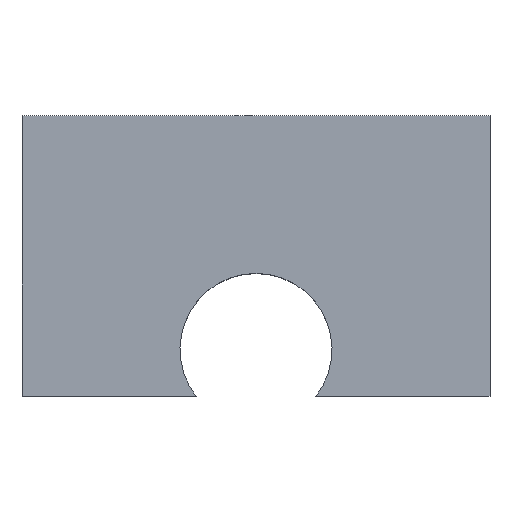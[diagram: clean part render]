
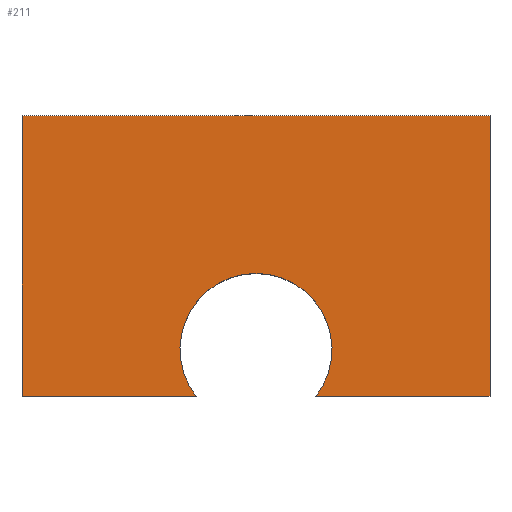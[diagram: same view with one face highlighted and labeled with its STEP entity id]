
A CAD part, top view. The second image highlights one B-rep face of the part: STEP entity #211.
In plain terms, the highlighted planar face has unit normal (0, 0, 1).
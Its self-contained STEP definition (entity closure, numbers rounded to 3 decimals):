
#24 = VERTEX_POINT('',#25);
#25 = CARTESIAN_POINT('',(-10.,48.,16.));
#32 = PLANE('',#33);
#33 = AXIS2_PLACEMENT_3D('',#34,#35,#36);
#34 = CARTESIAN_POINT('',(-10.,48.,12.));
#35 = DIRECTION('',(1.,0.,0.));
#36 = DIRECTION('',(0.,0.,1.));
#44 = PLANE('',#45);
#45 = AXIS2_PLACEMENT_3D('',#46,#47,#48);
#46 = CARTESIAN_POINT('',(-10.,48.,12.));
#47 = DIRECTION('',(0.,1.,0.));
#48 = DIRECTION('',(0.,0.,1.));
#85 = VERTEX_POINT('',#86);
#86 = CARTESIAN_POINT('',(-10.,60.,16.));
#100 = PLANE('',#101);
#101 = AXIS2_PLACEMENT_3D('',#102,#103,#104);
#102 = CARTESIAN_POINT('',(-10.,60.,12.));
#103 = DIRECTION('',(0.,1.,0.));
#104 = DIRECTION('',(0.,0.,1.));
#112 = EDGE_CURVE('',#24,#85,#113,.T.);
#113 = SURFACE_CURVE('',#114,(#118,#125),.PCURVE_S1.);
#114 = LINE('',#115,#116);
#115 = CARTESIAN_POINT('',(-10.,48.,16.));
#116 = VECTOR('',#117,1.);
#117 = DIRECTION('',(0.,1.,0.));
#118 = PCURVE('',#32,#119);
#119 = DEFINITIONAL_REPRESENTATION('',(#120),#124);
#120 = LINE('',#121,#122);
#121 = CARTESIAN_POINT('',(4.,0.));
#122 = VECTOR('',#123,1.);
#123 = DIRECTION('',(0.,-1.));
#124 = ( GEOMETRIC_REPRESENTATION_CONTEXT(2) 
PARAMETRIC_REPRESENTATION_CONTEXT() REPRESENTATION_CONTEXT('2D SPACE',''
  ) );
#125 = PCURVE('',#126,#131);
#126 = PLANE('',#127);
#127 = AXIS2_PLACEMENT_3D('',#128,#129,#130);
#128 = CARTESIAN_POINT('',(-10.,48.,16.));
#129 = DIRECTION('',(0.,0.,1.));
#130 = DIRECTION('',(1.,0.,0.));
#131 = DEFINITIONAL_REPRESENTATION('',(#132),#136);
#132 = LINE('',#133,#134);
#133 = CARTESIAN_POINT('',(0.,0.));
#134 = VECTOR('',#135,1.);
#135 = DIRECTION('',(0.,1.));
#136 = ( GEOMETRIC_REPRESENTATION_CONTEXT(2) 
PARAMETRIC_REPRESENTATION_CONTEXT() REPRESENTATION_CONTEXT('2D SPACE',''
  ) );
#165 = EDGE_CURVE('',#24,#166,#168,.T.);
#166 = VERTEX_POINT('',#167);
#167 = CARTESIAN_POINT('',(-2.562,48.,16.));
#168 = SURFACE_CURVE('',#169,(#173,#180),.PCURVE_S1.);
#169 = LINE('',#170,#171);
#170 = CARTESIAN_POINT('',(-10.,48.,16.));
#171 = VECTOR('',#172,1.);
#172 = DIRECTION('',(1.,0.,0.));
#173 = PCURVE('',#44,#174);
#174 = DEFINITIONAL_REPRESENTATION('',(#175),#179);
#175 = LINE('',#176,#177);
#176 = CARTESIAN_POINT('',(4.,0.));
#177 = VECTOR('',#178,1.);
#178 = DIRECTION('',(0.,1.));
#179 = ( GEOMETRIC_REPRESENTATION_CONTEXT(2) 
PARAMETRIC_REPRESENTATION_CONTEXT() REPRESENTATION_CONTEXT('2D SPACE',''
  ) );
#180 = PCURVE('',#126,#181);
#181 = DEFINITIONAL_REPRESENTATION('',(#182),#186);
#182 = LINE('',#183,#184);
#183 = CARTESIAN_POINT('',(0.,0.));
#184 = VECTOR('',#185,1.);
#185 = DIRECTION('',(1.,0.));
#186 = ( GEOMETRIC_REPRESENTATION_CONTEXT(2) 
PARAMETRIC_REPRESENTATION_CONTEXT() REPRESENTATION_CONTEXT('2D SPACE',''
  ) );
#201 = CYLINDRICAL_SURFACE('',#202,3.25);
#202 = AXIS2_PLACEMENT_3D('',#203,#204,#205);
#203 = CARTESIAN_POINT('',(0.,50.,12.));
#204 = DIRECTION('',(-0.,-0.,-1.));
#205 = DIRECTION('',(1.,0.,0.));
#211 = ADVANCED_FACE('',(#212),#126,.T.);
#212 = FACE_BOUND('',#213,.T.);
#213 = EDGE_LOOP('',(#214,#237,#238,#239,#267,#295));
#214 = ORIENTED_EDGE('',*,*,#215,.F.);
#215 = EDGE_CURVE('',#85,#216,#218,.T.);
#216 = VERTEX_POINT('',#217);
#217 = CARTESIAN_POINT('',(10.,60.,16.));
#218 = SURFACE_CURVE('',#219,(#223,#230),.PCURVE_S1.);
#219 = LINE('',#220,#221);
#220 = CARTESIAN_POINT('',(-10.,60.,16.));
#221 = VECTOR('',#222,1.);
#222 = DIRECTION('',(1.,0.,0.));
#223 = PCURVE('',#126,#224);
#224 = DEFINITIONAL_REPRESENTATION('',(#225),#229);
#225 = LINE('',#226,#227);
#226 = CARTESIAN_POINT('',(0.,12.));
#227 = VECTOR('',#228,1.);
#228 = DIRECTION('',(1.,0.));
#229 = ( GEOMETRIC_REPRESENTATION_CONTEXT(2) 
PARAMETRIC_REPRESENTATION_CONTEXT() REPRESENTATION_CONTEXT('2D SPACE',''
  ) );
#230 = PCURVE('',#100,#231);
#231 = DEFINITIONAL_REPRESENTATION('',(#232),#236);
#232 = LINE('',#233,#234);
#233 = CARTESIAN_POINT('',(4.,0.));
#234 = VECTOR('',#235,1.);
#235 = DIRECTION('',(0.,1.));
#236 = ( GEOMETRIC_REPRESENTATION_CONTEXT(2) 
PARAMETRIC_REPRESENTATION_CONTEXT() REPRESENTATION_CONTEXT('2D SPACE',''
  ) );
#237 = ORIENTED_EDGE('',*,*,#112,.F.);
#238 = ORIENTED_EDGE('',*,*,#165,.T.);
#239 = ORIENTED_EDGE('',*,*,#240,.T.);
#240 = EDGE_CURVE('',#166,#241,#243,.T.);
#241 = VERTEX_POINT('',#242);
#242 = CARTESIAN_POINT('',(2.562,48.,16.));
#243 = SURFACE_CURVE('',#244,(#249,#260),.PCURVE_S1.);
#244 = CIRCLE('',#245,3.25);
#245 = AXIS2_PLACEMENT_3D('',#246,#247,#248);
#246 = CARTESIAN_POINT('',(0.,50.,16.));
#247 = DIRECTION('',(-0.,0.,-1.));
#248 = DIRECTION('',(-0.788,-0.615,0.));
#249 = PCURVE('',#126,#250);
#250 = DEFINITIONAL_REPRESENTATION('',(#251),#259);
#251 = ( BOUNDED_CURVE() B_SPLINE_CURVE(2,(#252,#253,#254,#255,#256,#257
,#258),.UNSPECIFIED.,.T.,.F.) B_SPLINE_CURVE_WITH_KNOTS((1,2,2,2,2,1),(
    -2.094,0.,2.094,4.189,6.283,
8.378),.UNSPECIFIED.) CURVE() GEOMETRIC_REPRESENTATION_ITEM() 
RATIONAL_B_SPLINE_CURVE((1.,0.5,1.,0.5,1.,0.5,1.)) REPRESENTATION_ITEM(
  '') );
#252 = CARTESIAN_POINT('',(7.438,0.));
#253 = CARTESIAN_POINT('',(3.974,4.437));
#254 = CARTESIAN_POINT('',(9.549,5.219));
#255 = CARTESIAN_POINT('',(15.123,6.));
#256 = CARTESIAN_POINT('',(13.013,0.781));
#257 = CARTESIAN_POINT('',(10.902,-4.437));
#258 = CARTESIAN_POINT('',(7.438,0.));
#259 = ( GEOMETRIC_REPRESENTATION_CONTEXT(2) 
PARAMETRIC_REPRESENTATION_CONTEXT() REPRESENTATION_CONTEXT('2D SPACE',''
  ) );
#260 = PCURVE('',#201,#261);
#261 = DEFINITIONAL_REPRESENTATION('',(#262),#266);
#262 = LINE('',#263,#264);
#263 = CARTESIAN_POINT('',(-10.088,-4.));
#264 = VECTOR('',#265,1.);
#265 = DIRECTION('',(1.,-0.));
#266 = ( GEOMETRIC_REPRESENTATION_CONTEXT(2) 
PARAMETRIC_REPRESENTATION_CONTEXT() REPRESENTATION_CONTEXT('2D SPACE',''
  ) );
#267 = ORIENTED_EDGE('',*,*,#268,.T.);
#268 = EDGE_CURVE('',#241,#269,#271,.T.);
#269 = VERTEX_POINT('',#270);
#270 = CARTESIAN_POINT('',(10.,48.,16.));
#271 = SURFACE_CURVE('',#272,(#276,#283),.PCURVE_S1.);
#272 = LINE('',#273,#274);
#273 = CARTESIAN_POINT('',(-10.,48.,16.));
#274 = VECTOR('',#275,1.);
#275 = DIRECTION('',(1.,0.,0.));
#276 = PCURVE('',#126,#277);
#277 = DEFINITIONAL_REPRESENTATION('',(#278),#282);
#278 = LINE('',#279,#280);
#279 = CARTESIAN_POINT('',(0.,0.));
#280 = VECTOR('',#281,1.);
#281 = DIRECTION('',(1.,0.));
#282 = ( GEOMETRIC_REPRESENTATION_CONTEXT(2) 
PARAMETRIC_REPRESENTATION_CONTEXT() REPRESENTATION_CONTEXT('2D SPACE',''
  ) );
#283 = PCURVE('',#284,#289);
#284 = PLANE('',#285);
#285 = AXIS2_PLACEMENT_3D('',#286,#287,#288);
#286 = CARTESIAN_POINT('',(-10.,48.,12.));
#287 = DIRECTION('',(0.,1.,0.));
#288 = DIRECTION('',(0.,0.,1.));
#289 = DEFINITIONAL_REPRESENTATION('',(#290),#294);
#290 = LINE('',#291,#292);
#291 = CARTESIAN_POINT('',(4.,0.));
#292 = VECTOR('',#293,1.);
#293 = DIRECTION('',(0.,1.));
#294 = ( GEOMETRIC_REPRESENTATION_CONTEXT(2) 
PARAMETRIC_REPRESENTATION_CONTEXT() REPRESENTATION_CONTEXT('2D SPACE',''
  ) );
#295 = ORIENTED_EDGE('',*,*,#296,.T.);
#296 = EDGE_CURVE('',#269,#216,#297,.T.);
#297 = SURFACE_CURVE('',#298,(#302,#309),.PCURVE_S1.);
#298 = LINE('',#299,#300);
#299 = CARTESIAN_POINT('',(10.,48.,16.));
#300 = VECTOR('',#301,1.);
#301 = DIRECTION('',(0.,1.,0.));
#302 = PCURVE('',#126,#303);
#303 = DEFINITIONAL_REPRESENTATION('',(#304),#308);
#304 = LINE('',#305,#306);
#305 = CARTESIAN_POINT('',(20.,0.));
#306 = VECTOR('',#307,1.);
#307 = DIRECTION('',(0.,1.));
#308 = ( GEOMETRIC_REPRESENTATION_CONTEXT(2) 
PARAMETRIC_REPRESENTATION_CONTEXT() REPRESENTATION_CONTEXT('2D SPACE',''
  ) );
#309 = PCURVE('',#310,#315);
#310 = PLANE('',#311);
#311 = AXIS2_PLACEMENT_3D('',#312,#313,#314);
#312 = CARTESIAN_POINT('',(10.,48.,12.));
#313 = DIRECTION('',(1.,0.,0.));
#314 = DIRECTION('',(0.,0.,1.));
#315 = DEFINITIONAL_REPRESENTATION('',(#316),#320);
#316 = LINE('',#317,#318);
#317 = CARTESIAN_POINT('',(4.,0.));
#318 = VECTOR('',#319,1.);
#319 = DIRECTION('',(0.,-1.));
#320 = ( GEOMETRIC_REPRESENTATION_CONTEXT(2) 
PARAMETRIC_REPRESENTATION_CONTEXT() REPRESENTATION_CONTEXT('2D SPACE',''
  ) );
